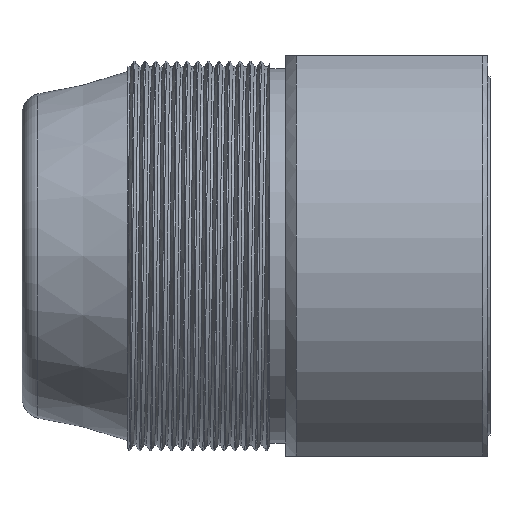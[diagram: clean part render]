
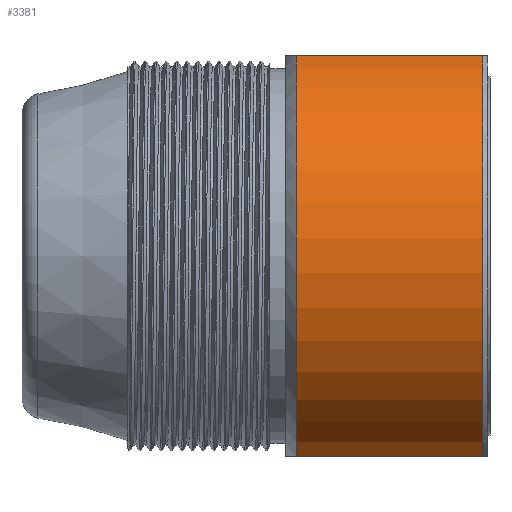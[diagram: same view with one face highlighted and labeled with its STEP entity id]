
A CAD part, top view. The second image highlights one B-rep face of the part: STEP entity #3381.
In plain terms, the highlighted cylindrical face has radius 20 mm (diameter 40 mm), a partial arc.
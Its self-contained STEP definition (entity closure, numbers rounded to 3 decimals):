
#655 = VERTEX_POINT ( 'NONE', #1124 ) ;
#660 = LINE ( 'NONE', #5048, #2926 ) ;
#897 = AXIS2_PLACEMENT_3D ( 'NONE', #933, #2545, #2040 ) ;
#910 = EDGE_CURVE ( 'NONE', #2155, #2556, #4259, .T. ) ;
#933 = CARTESIAN_POINT ( 'NONE',  ( -0.7, 0., 0. ) ) ;
#1099 = ORIENTED_EDGE ( 'NONE', *, *, #2588, .F. ) ;
#1124 = CARTESIAN_POINT ( 'NONE',  ( -0.7, -19., 6.245 ) ) ;
#1153 = ORIENTED_EDGE ( 'NONE', *, *, #910, .T. ) ;
#1183 = FACE_OUTER_BOUND ( 'NONE', #1889, .T. ) ;
#1324 = VECTOR ( 'NONE', #3275, 1000. ) ;
#1494 = VERTEX_POINT ( 'NONE', #2451 ) ;
#1725 = LINE ( 'NONE', #3754, #1324 ) ;
#1889 = EDGE_LOOP ( 'NONE', ( #2234, #4237, #1099, #1153 ) ) ;
#1948 = CARTESIAN_POINT ( 'NONE',  ( 0., 0., 0. ) ) ;
#2040 = DIRECTION ( 'NONE',  ( 0., 0., -1. ) ) ;
#2155 = VERTEX_POINT ( 'NONE', #2438 ) ;
#2234 = ORIENTED_EDGE ( 'NONE', *, *, #4136, .F. ) ;
#2260 = DIRECTION ( 'NONE',  ( 1., 0., 0. ) ) ;
#2429 = EDGE_CURVE ( 'NONE', #655, #1494, #2497, .T. ) ;
#2438 = CARTESIAN_POINT ( 'NONE',  ( -18.4, 19., 6.245 ) ) ;
#2451 = CARTESIAN_POINT ( 'NONE',  ( -0.7, 19., 6.245 ) ) ;
#2497 = CIRCLE ( 'NONE', #897, 20. ) ;
#2545 = DIRECTION ( 'NONE',  ( -1., 0., 0. ) ) ;
#2556 = VERTEX_POINT ( 'NONE', #4905 ) ;
#2588 = EDGE_CURVE ( 'NONE', #2155, #1494, #1725, .T. ) ;
#2683 = CARTESIAN_POINT ( 'NONE',  ( -18.4, 0., 0. ) ) ;
#2709 = DIRECTION ( 'NONE',  ( 0., 0., 1. ) ) ;
#2926 = VECTOR ( 'NONE', #4217, 1000. ) ;
#3275 = DIRECTION ( 'NONE',  ( 1., 0., 0. ) ) ;
#3381 = ADVANCED_FACE ( 'NONE', ( #1183 ), #4003, .T. ) ;
#3754 = CARTESIAN_POINT ( 'NONE',  ( 0., 19., 6.245 ) ) ;
#3925 = DIRECTION ( 'NONE',  ( 0., 0., -1. ) ) ;
#4003 = CYLINDRICAL_SURFACE ( 'NONE', #4519, 20. ) ;
#4010 = AXIS2_PLACEMENT_3D ( 'NONE', #2683, #2260, #2709 ) ;
#4136 = EDGE_CURVE ( 'NONE', #655, #2556, #660, .T. ) ;
#4217 = DIRECTION ( 'NONE',  ( -1., 0., 0. ) ) ;
#4237 = ORIENTED_EDGE ( 'NONE', *, *, #2429, .T. ) ;
#4259 = CIRCLE ( 'NONE', #4010, 20. ) ;
#4519 = AXIS2_PLACEMENT_3D ( 'NONE', #1948, #4736, #3925 ) ;
#4736 = DIRECTION ( 'NONE',  ( 1., 0., 0. ) ) ;
#4905 = CARTESIAN_POINT ( 'NONE',  ( -18.4, -19., 6.245 ) ) ;
#5048 = CARTESIAN_POINT ( 'NONE',  ( 0., -19., 6.245 ) ) ;
